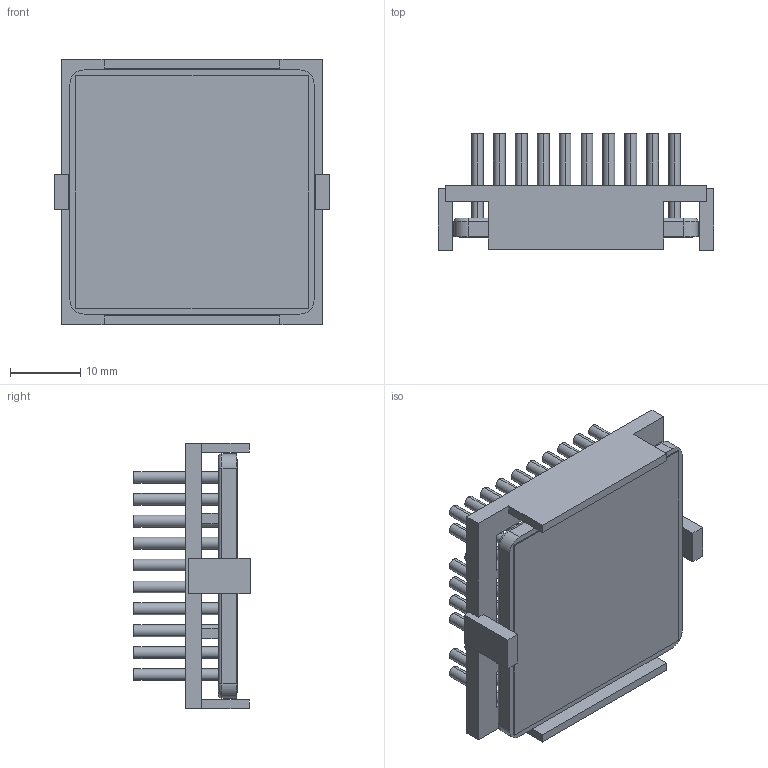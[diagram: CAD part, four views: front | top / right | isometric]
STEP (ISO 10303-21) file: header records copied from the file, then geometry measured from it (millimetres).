
FILE_DESCRIPTION (( 'STEP AP214' ), '1' );
FILE_NAME ('INM35002-15PCU-2.6BU.STEP', '2023-02-28T22:51:00', ( '' ), ( '' ), 'SwSTEP 2.0', 'SolidWorks 2020', '' );
FILE_SCHEMA (( 'AUTOMOTIVE_DESIGN' ));
Length unit declared in the file: inch
Products named in the file (1): INM35002-15PCU-2.6BU
Bounding box: 39.2 x 16.5 x 37.7 mm (x, y, z)
Volume: 7511.8 mm3; surface area: 13510.3 mm2
Topology: 3 solids, 3 shells, 354 faces, 760 edges, 504 vertices
Faces by surface type: cylinder 192, plane 158, torus 4
Entity records: 14416 total; most frequent: DIRECTION 1858, CARTESIAN_POINT 1619, ORIENTED_EDGE 1520, EDGE_CURVE 760, AXIS2_PLACEMENT_3D 743, VERTEX_POINT 504, EDGE_LOOP 448, CIRCLE 388
